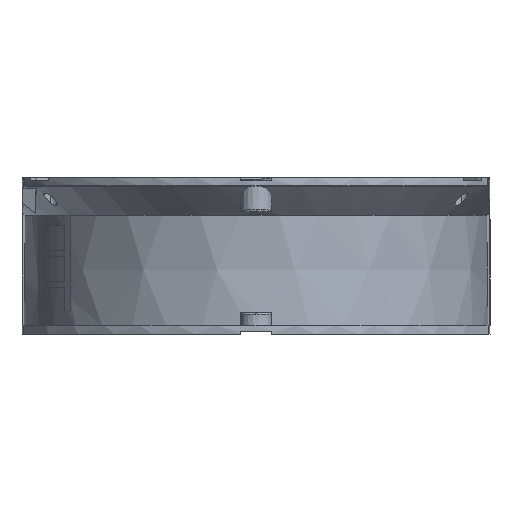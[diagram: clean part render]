
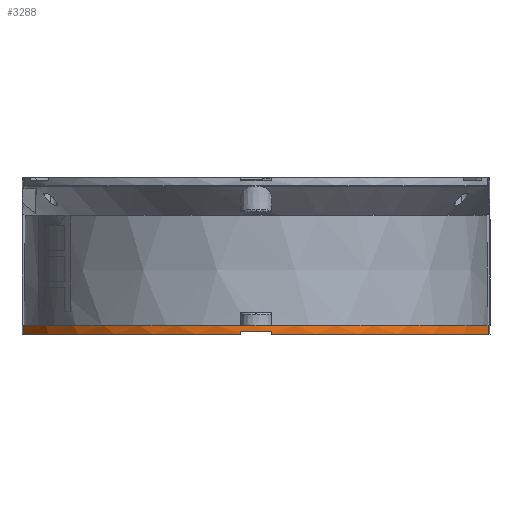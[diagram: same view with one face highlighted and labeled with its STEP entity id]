
A CAD part, left-side view. The second image highlights one B-rep face of the part: STEP entity #3288.
In plain terms, the highlighted conical face has half-angle 1 degrees and reference radius 86.897 mm.
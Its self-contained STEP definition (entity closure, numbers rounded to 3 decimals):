
#1656=CONICAL_SURFACE('',#18374,86.897,1.);
#2138=LINE('',#41842,#2619);
#2139=LINE('',#41844,#2620);
#2140=LINE('',#41848,#2621);
#2141=LINE('',#41851,#2622);
#2619=VECTOR('',#20877,1.);
#2620=VECTOR('',#20880,1.);
#2621=VECTOR('',#20883,1.);
#2622=VECTOR('',#20886,1.);
#3288=ADVANCED_FACE('',(#4368),#1656,.T.);
#4368=FACE_OUTER_BOUND('',#5271,.T.);
#5271=EDGE_LOOP('',(#10556,#10557,#10558,#10559,#10560,#10561,#10562,#10563,
#10564));
#10556=ORIENTED_EDGE('',*,*,#16055,.T.);
#10557=ORIENTED_EDGE('',*,*,#16144,.F.);
#10558=ORIENTED_EDGE('',*,*,#16145,.T.);
#10559=ORIENTED_EDGE('',*,*,#16146,.T.);
#10560=ORIENTED_EDGE('',*,*,#16147,.T.);
#10561=ORIENTED_EDGE('',*,*,#16125,.F.);
#10562=ORIENTED_EDGE('',*,*,#16143,.F.);
#10563=ORIENTED_EDGE('',*,*,#16100,.F.);
#10564=ORIENTED_EDGE('',*,*,#16148,.T.);
#13756=VERTEX_POINT('',#41492);
#13757=VERTEX_POINT('',#41494);
#13785=VERTEX_POINT('',#41674);
#13786=VERTEX_POINT('',#41676);
#13803=VERTEX_POINT('',#41721);
#13804=VERTEX_POINT('',#41723);
#13807=VERTEX_POINT('',#41845);
#13808=VERTEX_POINT('',#41847);
#13809=VERTEX_POINT('',#41849);
#16055=EDGE_CURVE('',#13757,#13756,#17316,.T.);
#16100=EDGE_CURVE('',#13785,#13786,#17326,.T.);
#16125=EDGE_CURVE('',#13803,#13804,#17333,.T.);
#16143=EDGE_CURVE('',#13786,#13803,#2138,.T.);
#16144=EDGE_CURVE('',#13807,#13756,#2139,.T.);
#16145=EDGE_CURVE('',#13807,#13808,#17334,.T.);
#16146=EDGE_CURVE('',#13808,#13809,#2140,.T.);
#16147=EDGE_CURVE('',#13809,#13804,#17335,.T.);
#16148=EDGE_CURVE('',#13785,#13757,#2141,.T.);
#17316=CIRCLE('',#18311,86.906);
#17326=CIRCLE('',#18341,86.924);
#17333=CIRCLE('',#18357,86.871);
#17334=CIRCLE('',#18372,86.924);
#17335=CIRCLE('',#18373,86.871);
#18311=AXIS2_PLACEMENT_3D('',#41493,#20719,#20720);
#18341=AXIS2_PLACEMENT_3D('',#41675,#20797,#20798);
#18357=AXIS2_PLACEMENT_3D('',#41722,#20842,#20843);
#18372=AXIS2_PLACEMENT_3D('',#41846,#20881,#20882);
#18373=AXIS2_PLACEMENT_3D('',#41850,#20884,#20885);
#18374=AXIS2_PLACEMENT_3D('',#41852,#20887,#20888);
#20719=DIRECTION('',(0.,0.,1.));
#20720=DIRECTION('',(-0.998,0.061,0.));
#20797=DIRECTION('',(0.,0.,-1.));
#20798=DIRECTION('',(-0.998,0.061,0.));
#20842=DIRECTION('',(0.,0.,1.));
#20843=DIRECTION('',(-0.478,0.878,0.));
#20877=DIRECTION('',(0.004,-0.017,1.));
#20880=DIRECTION('',(0.017,0.,1.));
#20881=DIRECTION('',(0.,0.,1.));
#20882=DIRECTION('',(-0.998,-0.061,0.));
#20883=DIRECTION('',(0.004,0.017,1.));
#20884=DIRECTION('',(0.,0.,-1.));
#20885=DIRECTION('',(-0.478,-0.878,0.));
#20886=DIRECTION('',(0.017,0.,1.));
#20887=DIRECTION('',(0.,0.,-1.));
#20888=DIRECTION('',(0.,-1.,0.));
#41492=CARTESIAN_POINT('',(-86.747,-5.261,0.4));
#41493=CARTESIAN_POINT('',(0.,0.,0.4));
#41494=CARTESIAN_POINT('',(-86.747,5.261,0.4));
#41674=CARTESIAN_POINT('',(-86.764,5.261,-0.602));
#41675=CARTESIAN_POINT('',(0.,0.,-0.602));
#41676=CARTESIAN_POINT('',(-41.548,76.351,-0.602));
#41721=CARTESIAN_POINT('',(-41.535,76.298,2.404));
#41722=CARTESIAN_POINT('',(0.,0.,2.404));
#41723=CARTESIAN_POINT('',(-86.871,0.,2.404));
#41842=CARTESIAN_POINT('',(-41.548,76.351,-0.602));
#41844=CARTESIAN_POINT('',(-86.764,-5.261,-0.602));
#41845=CARTESIAN_POINT('',(-86.764,-5.261,-0.602));
#41846=CARTESIAN_POINT('',(0.,0.,-0.602));
#41847=CARTESIAN_POINT('',(-41.548,-76.351,-0.602));
#41848=CARTESIAN_POINT('',(-41.548,-76.351,-0.602));
#41849=CARTESIAN_POINT('',(-41.535,-76.298,2.404));
#41850=CARTESIAN_POINT('',(0.,0.,2.404));
#41851=CARTESIAN_POINT('',(-86.764,5.261,-0.602));
#41852=CARTESIAN_POINT('',(0.,0.,0.901));
